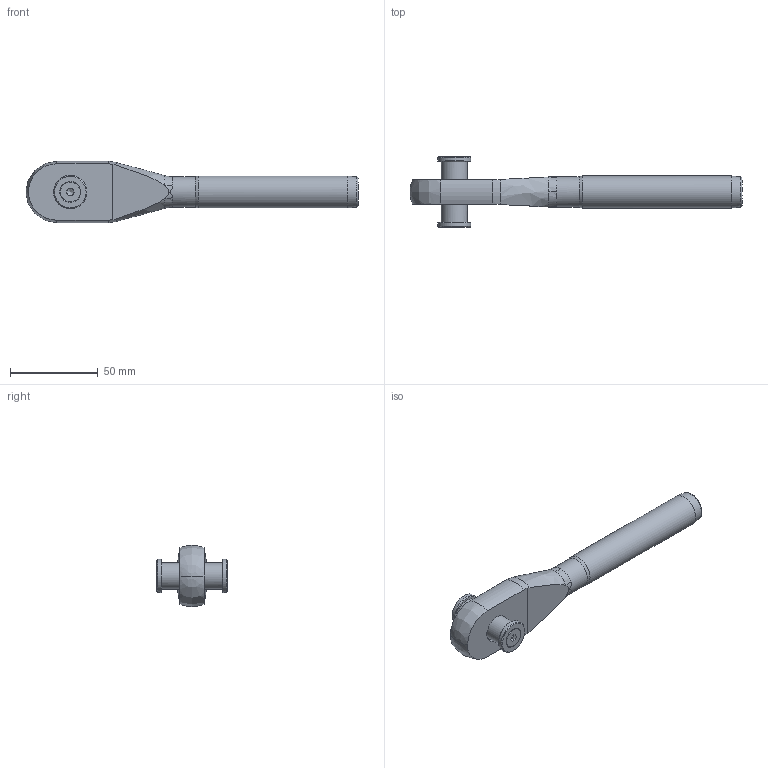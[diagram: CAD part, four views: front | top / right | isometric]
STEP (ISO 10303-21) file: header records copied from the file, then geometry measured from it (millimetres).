
FILE_DESCRIPTION(/* description */ (''),/* implementation_level */ '2;1');
FILE_NAME(/* name */ 'MCC 10_1,4418',/* time_stamp */ '2023-05-23T15:40:30+02:00',/* author */ (''),/* organization */ (''),/* preprocessor_version */ 'ST-DEVELOPER v16.5',/* originating_system */ 'Rhino 7.22',/* authorisation */ '');
FILE_SCHEMA (('CONFIG_CONTROL_DESIGN'));
Length unit declared in the file: millimetre
Products named in the file (1): Document
Bounding box: 189.5 x 40.86 x 35 mm (x, y, z)
Volume: 66436.1 mm3; surface area: 18134.3 mm2
Topology: 6 solids, 6 shells, 74 faces, 203 edges, 135 vertices
Faces by surface type: bspline 31, plane 27, cylinder 16
Full cylindrical faces by diameter (mm): 4.917 x2, 6 x2, 6.5 x2, 11.34 x2, 15 x1, 16 x1, 17.4 x1, 18.3 x1, 19 x2
Entity records: 3240 total; most frequent: CARTESIAN_POINT 1985, ORIENTED_EDGE 386, EDGE_CURVE 193, VERTEX_POINT 135, EDGE_LOOP 84, ADVANCED_FACE 74, FACE_OUTER_BOUND 74, B_SPLINE_CURVE_WITH_KNOTS 64
